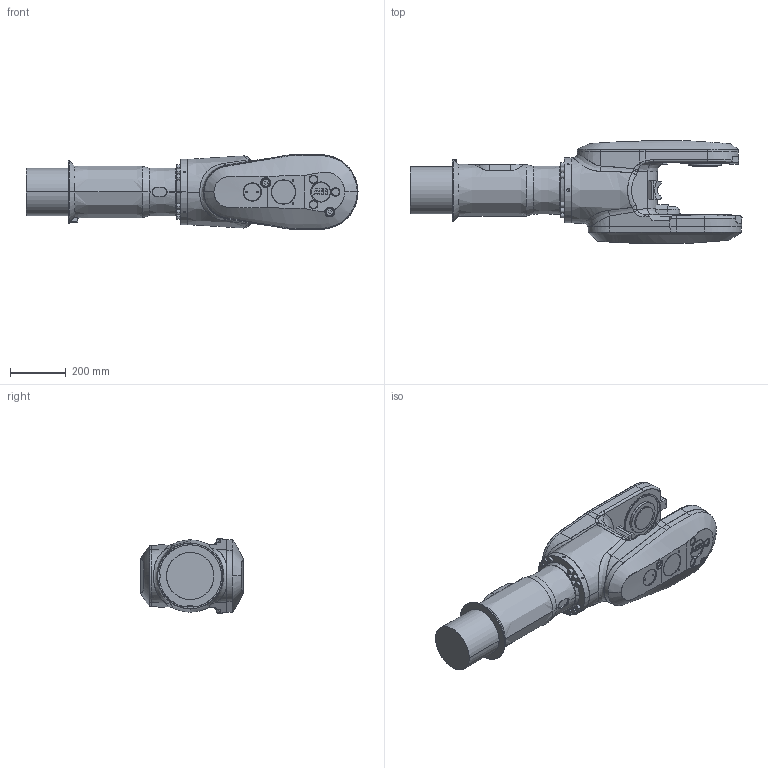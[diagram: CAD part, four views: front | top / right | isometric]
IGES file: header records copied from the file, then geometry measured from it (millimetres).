
Start section: SolidWorks IGES file using analytic representation for surfaces
Global section: file name: C:\Users\SEALDUN\OneDrive - ABB\Documents\R&D Robotics\Work Items\WI 632927 light weight hole removal\IGES\IRB5720-MH3_180kg-260_OC_03_IGES_J\IRB5720-MH3_180kg-260_OmniCore_rev00_LINK04_CAD.igs; native system: SolidWorks 2024; preprocessor: SolidWorks 2024; author: SEALDUN; date: 250708.132516; units: millimetre
Bounding box: 1190.48 x 368.64 x 267.05 mm (x, y, z)
Surface area: 1164531.5 mm2 (no closed solid volume)
Topology: 0 solids, 0 shells, 791 faces, 12892 edges, 12870 vertices
Faces by surface type: bspline 468, revolution 323
